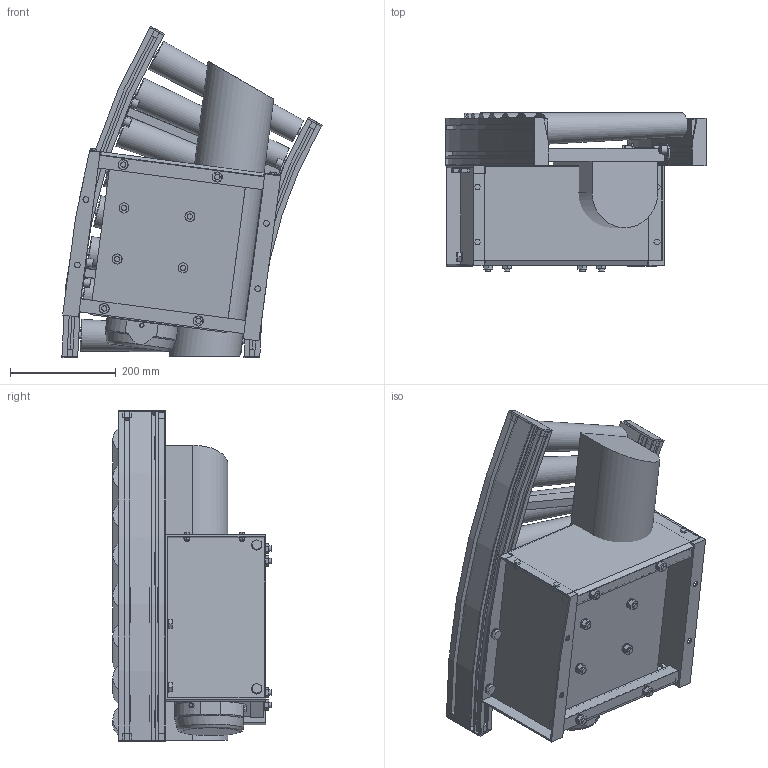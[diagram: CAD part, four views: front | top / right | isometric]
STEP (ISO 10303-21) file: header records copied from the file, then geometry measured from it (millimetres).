
FILE_DESCRIPTION( (''), '2;1');
FILE_NAME ('WEB-MCD1-50-315-75-30°-C9.stp','2026-06-19T10:48:00',(''),(''),'spGate 21.9.5 (****-****-****-****)','','');
FILE_SCHEMA (('AUTOMOTIVE_DESIGN'));
Length unit declared in the file: millimetre
Products named in the file (25): WEB-MCD1-50-315-75-30_-C9; TEMP_X_T-prt0; TEMP_X_T-prt1; TEMP_X_T-prt2; TEMP_X_T-prt3; TEMP_X_T-prt4; TEMP_X_T-prt5; TEMP_X_T-prt6; TEMP_X_T-prt7; TEMP_X_T-prt8; TEMP_X_T-prt9; TEMP_X_T-prt10; TEMP_X_T-prt11; TEMP_X_T-prt12; TEMP_X_T-prt13; TEMP_X_T-prt14; TEMP_X_T-prt15; TEMP_X_T-prt16; TEMP_X_T-prt17; TEMP_X_T-prt18; TEMP_X_T-prt19; TEMP_X_T-prt20; TEMP_X_T-prt21; TEMP_X_T-prt22; TEMP_X_T-prt23
Assembly tree (24 placements, depth 2):
  WEB-MCD1-50-315-75-30_-C9
    TEMP_X_T-prt0
    TEMP_X_T-prt1
    TEMP_X_T-prt2
    TEMP_X_T-prt3
    TEMP_X_T-prt4
    TEMP_X_T-prt5
    TEMP_X_T-prt6
    TEMP_X_T-prt7
    TEMP_X_T-prt8
    TEMP_X_T-prt9
    TEMP_X_T-prt10
    TEMP_X_T-prt11
    TEMP_X_T-prt12
    TEMP_X_T-prt13
    TEMP_X_T-prt14
    TEMP_X_T-prt15
    TEMP_X_T-prt16
    TEMP_X_T-prt17
    TEMP_X_T-prt18
    TEMP_X_T-prt19
    TEMP_X_T-prt20
    TEMP_X_T-prt21
    TEMP_X_T-prt22
    TEMP_X_T-prt23
Bounding box: 493.06 x 299.77 x 628.1 mm (x, y, z)
Volume: 22308317.5 mm3; surface area: 2331052.5 mm2
Topology: 24 solids, 32 shells, 1160 faces, 2770 edges, 1833 vertices
Faces by surface type: plane 876, cylinder 253, bspline 31
Full cylindrical faces by diameter (mm): 6 x9, 6.1 x4, 6.5 x8, 10 x30, 10.2 x16, 10.5 x4, 11 x29, 12 x17, 12.2 x4, 16 x8, 18.4 x16, 21 x4, 24 x1, 28 x1, 56 x1, 113.2 x1, 125 x1, 135.411 x1
Entity records: 58010 total; most frequent: CARTESIAN_POINT 7029, DIRECTION 5808, ORIENTED_EDGE 5538, COLOUR_RGB 3953, PRESENTATION_STYLE_ASSIGNMENT 3953, STYLED_ITEM 3953, EDGE_CURVE 2769, DRAUGHTING_PRE_DEFINED_CURVE_FONT 2769
